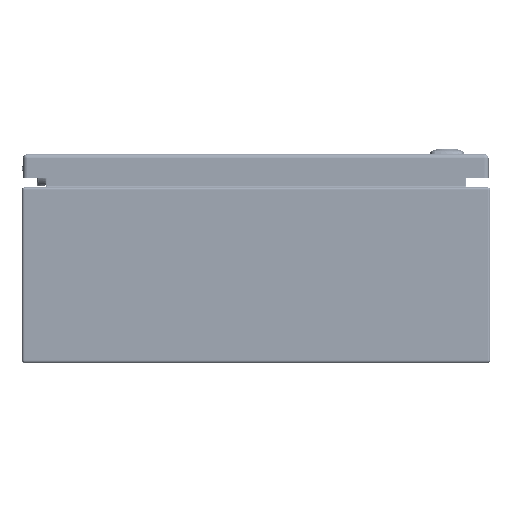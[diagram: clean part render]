
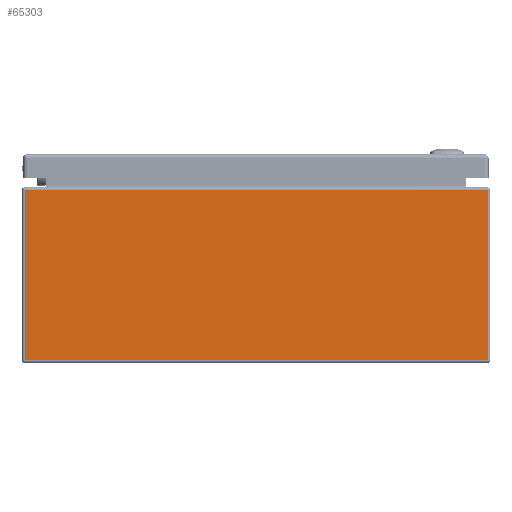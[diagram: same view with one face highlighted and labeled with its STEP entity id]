
A CAD part, front view. The second image highlights one B-rep face of the part: STEP entity #65303.
In plain terms, the highlighted planar face has unit normal (0, -1, 0).
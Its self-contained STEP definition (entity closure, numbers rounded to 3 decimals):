
#6342=LINE('',#91487,#10379);
#6349=LINE('',#91502,#10386);
#6351=LINE('',#91509,#10388);
#6353=LINE('',#91518,#10390);
#10379=VECTOR('',#76039,0.394);
#10386=VECTOR('',#76052,0.394);
#10388=VECTOR('',#76060,0.394);
#10390=VECTOR('',#76072,0.394);
#15459=FACE_OUTER_BOUND('',#19469,.T.);
#19469=EDGE_LOOP('',(#43450,#43451,#43452,#43453));
#26174=VERTEX_POINT('',#91457);
#26181=VERTEX_POINT('',#91483);
#26186=VERTEX_POINT('',#91501);
#26188=VERTEX_POINT('',#91507);
#32859=EDGE_CURVE('',#26174,#26181,#6342,.T.);
#32866=EDGE_CURVE('',#26181,#26186,#6349,.T.);
#32870=EDGE_CURVE('',#26188,#26174,#6351,.T.);
#32875=EDGE_CURVE('',#26188,#26186,#6353,.T.);
#43450=ORIENTED_EDGE('',*,*,#32859,.F.);
#43451=ORIENTED_EDGE('',*,*,#32870,.F.);
#43452=ORIENTED_EDGE('',*,*,#32875,.T.);
#43453=ORIENTED_EDGE('',*,*,#32866,.F.);
#63905=PLANE('',#70210);
#65303=ADVANCED_FACE('',(#15459),#63905,.F.);
#70210=AXIS2_PLACEMENT_3D('',#91529,#76086,#76087);
#76039=DIRECTION('',(1.,0.,0.));
#76052=DIRECTION('',(0.,0.,-1.));
#76060=DIRECTION('',(0.,0.,1.));
#76072=DIRECTION('',(1.,0.,0.));
#76086=DIRECTION('center_axis',(0.,1.,0.));
#76087=DIRECTION('ref_axis',(0.,0.,1.));
#91457=CARTESIAN_POINT('',(-7.916,-12.,5.916));
#91483=CARTESIAN_POINT('',(7.916,-12.,5.916));
#91487=CARTESIAN_POINT('',(3.979,-12.,5.916));
#91501=CARTESIAN_POINT('',(7.916,-12.,0.084));
#91502=CARTESIAN_POINT('',(7.916,-12.,3.));
#91507=CARTESIAN_POINT('',(-7.916,-12.,0.084));
#91509=CARTESIAN_POINT('',(-7.916,-12.,3.));
#91518=CARTESIAN_POINT('',(-3.958,-12.,0.084));
#91529=CARTESIAN_POINT('Origin',(0.,-12.,3.));
